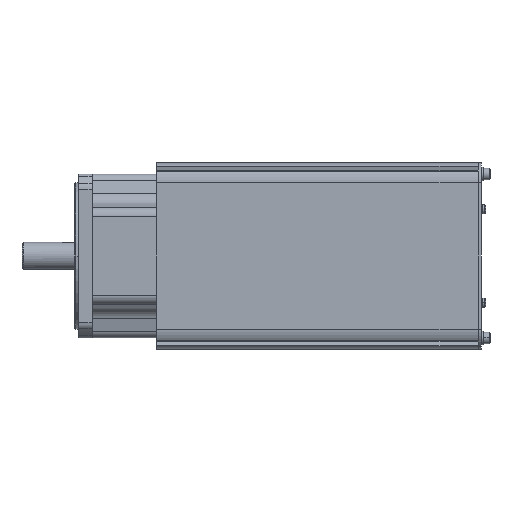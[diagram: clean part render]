
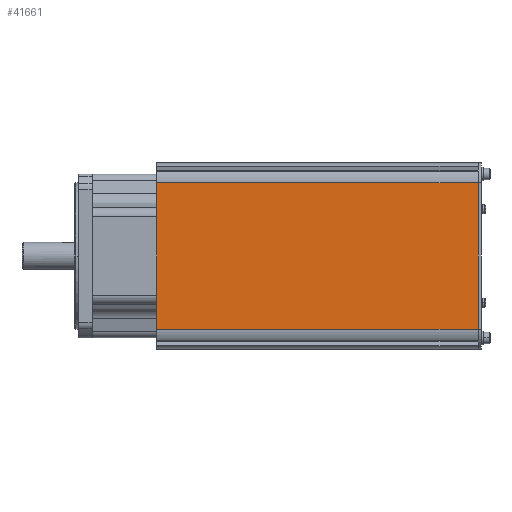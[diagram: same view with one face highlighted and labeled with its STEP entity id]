
A CAD part, front view. The second image highlights one B-rep face of the part: STEP entity #41661.
In plain terms, the highlighted planar face has unit normal (0, -1, 0).
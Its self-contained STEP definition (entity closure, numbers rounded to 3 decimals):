
#36425=DIRECTION('',(0.,0.,-1.));
#36426=VECTOR('',#36425,130.);
#36427=CARTESIAN_POINT('',(119.3,-82.5,65.));
#36428=LINE('',#36427,#36426);
#37927=DIRECTION('',(0.,0.,-1.));
#37928=VECTOR('',#37927,130.);
#37929=CARTESIAN_POINT('',(403.3,-82.5,65.));
#37930=LINE('',#37929,#37928);
#37931=DIRECTION('',(-1.,0.,0.));
#37932=VECTOR('',#37931,284.);
#37933=CARTESIAN_POINT('',(403.3,-82.5,65.));
#37934=LINE('',#37933,#37932);
#37948=DIRECTION('',(-1.,0.,0.));
#37949=VECTOR('',#37948,284.);
#37950=CARTESIAN_POINT('',(403.3,-82.5,-65.));
#37951=LINE('',#37950,#37949);
#38121=CARTESIAN_POINT('',(403.3,-82.5,65.));
#38122=CARTESIAN_POINT('',(403.3,-82.5,-65.));
#38123=VERTEX_POINT('',#38121);
#38124=VERTEX_POINT('',#38122);
#38125=CARTESIAN_POINT('',(119.3,-82.5,65.));
#38126=CARTESIAN_POINT('',(119.3,-82.5,-65.));
#38127=VERTEX_POINT('',#38125);
#38128=VERTEX_POINT('',#38126);
#41648=CARTESIAN_POINT('',(403.3,-82.5,65.));
#41649=DIRECTION('',(0.,-1.,0.));
#41650=DIRECTION('',(0.,0.,-1.));
#41651=AXIS2_PLACEMENT_3D('',#41648,#41649,#41650);
#41652=PLANE('',#41651);
#41654=ORIENTED_EDGE('',*,*,#41653,.T.);
#41656=ORIENTED_EDGE('',*,*,#41655,.T.);
#41657=ORIENTED_EDGE('',*,*,#39306,.F.);
#41658=ORIENTED_EDGE('',*,*,#41550,.F.);
#41659=EDGE_LOOP('',(#41654,#41656,#41657,#41658));
#41660=FACE_OUTER_BOUND('',#41659,.F.);
#41661=ADVANCED_FACE('',(#41660),#41652,.T.);
#39306=EDGE_CURVE('',#38127,#38128,#36428,.T.);
#41550=EDGE_CURVE('',#38123,#38127,#37934,.T.);
#41653=EDGE_CURVE('',#38123,#38124,#37930,.T.);
#41655=EDGE_CURVE('',#38124,#38128,#37951,.T.);
